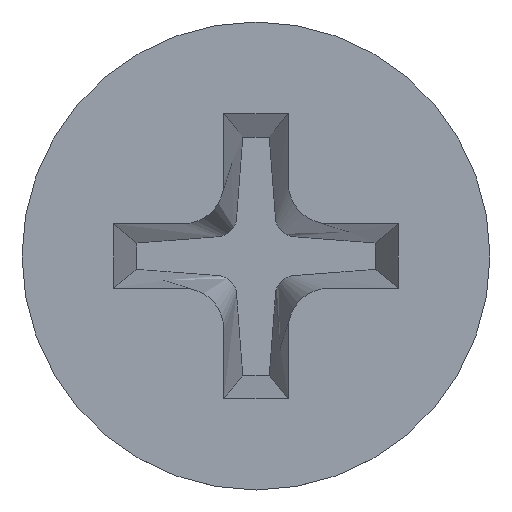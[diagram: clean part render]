
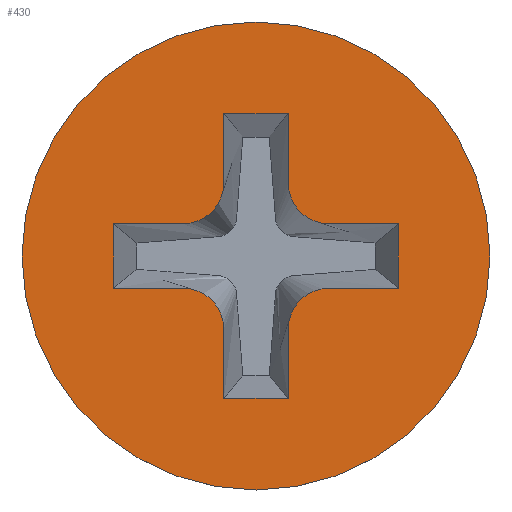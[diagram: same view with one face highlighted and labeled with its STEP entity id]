
A CAD part, top view. The second image highlights one B-rep face of the part: STEP entity #430.
In plain terms, the highlighted planar face has unit normal (0, 0, 1).
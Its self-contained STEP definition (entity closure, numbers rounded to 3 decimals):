
#1 = DIRECTION ( 'NONE',  ( 1., 0., 0. ) ) ;
#8 = CARTESIAN_POINT ( 'NONE',  ( 0.55, 1.25, 2.3 ) ) ;
#15 = CARTESIAN_POINT ( 'NONE',  ( -2.435, 0.55, 2.3 ) ) ;
#17 = CARTESIAN_POINT ( 'NONE',  ( 0.55, 2.435, 2.3 ) ) ;
#30 = DIRECTION ( 'NONE',  ( 0., 0., -1. ) ) ;
#31 = VERTEX_POINT ( 'NONE', #803 ) ;
#32 = AXIS2_PLACEMENT_3D ( 'NONE', #179, #686, #815 ) ;
#35 = VERTEX_POINT ( 'NONE', #309 ) ;
#38 = VERTEX_POINT ( 'NONE', #488 ) ;
#40 = DIRECTION ( 'NONE',  ( 1., 0., 0. ) ) ;
#41 = EDGE_CURVE ( 'NONE', #716, #31, #707, .T. ) ;
#47 = AXIS2_PLACEMENT_3D ( 'NONE', #812, #291, #682 ) ;
#49 = VERTEX_POINT ( 'NONE', #679 ) ;
#50 = CARTESIAN_POINT ( 'NONE',  ( 2.435, -0.55, 2.3 ) ) ;
#61 = ORIENTED_EDGE ( 'NONE', *, *, #421, .F. ) ;
#62 = AXIS2_PLACEMENT_3D ( 'NONE', #422, #353, #297 ) ;
#64 = LINE ( 'NONE', #385, #772 ) ;
#79 = CARTESIAN_POINT ( 'NONE',  ( -1.25, 0.55, 2.3 ) ) ;
#81 = DIRECTION ( 'NONE',  ( 1., 0., 0. ) ) ;
#86 = VERTEX_POINT ( 'NONE', #236 ) ;
#87 = VECTOR ( 'NONE', #789, 1000. ) ;
#100 = VECTOR ( 'NONE', #519, 1000. ) ;
#105 = ORIENTED_EDGE ( 'NONE', *, *, #41, .F. ) ;
#126 = VECTOR ( 'NONE', #787, 1000. ) ;
#130 = ORIENTED_EDGE ( 'NONE', *, *, #505, .F. ) ;
#132 = EDGE_CURVE ( 'NONE', #306, #251, #502, .T. ) ;
#136 = LINE ( 'NONE', #388, #683 ) ;
#138 = DIRECTION ( 'NONE',  ( 0., 0., -1. ) ) ;
#140 = PLANE ( 'NONE',  #578 ) ;
#141 = EDGE_CURVE ( 'NONE', #542, #716, #320, .T. ) ;
#142 = CARTESIAN_POINT ( 'NONE',  ( 0.55, 2.435, 2.3 ) ) ;
#154 = CARTESIAN_POINT ( 'NONE',  ( -0.55, -1.25, 2.3 ) ) ;
#155 = LINE ( 'NONE', #17, #126 ) ;
#164 = EDGE_CURVE ( 'NONE', #31, #249, #702, .T. ) ;
#166 = CARTESIAN_POINT ( 'NONE',  ( -4., 0., 2.3 ) ) ;
#169 = DIRECTION ( 'NONE',  ( 0., 1., 0. ) ) ;
#170 = CARTESIAN_POINT ( 'NONE',  ( 1.25, 0.55, 2.3 ) ) ;
#179 = CARTESIAN_POINT ( 'NONE',  ( 1.25, 1.25, 2.3 ) ) ;
#190 = ORIENTED_EDGE ( 'NONE', *, *, #579, .F. ) ;
#197 = CIRCLE ( 'NONE', #669, 0.7 ) ;
#236 = CARTESIAN_POINT ( 'NONE',  ( 4., 0., 2.3 ) ) ;
#238 = LINE ( 'NONE', #612, #736 ) ;
#249 = VERTEX_POINT ( 'NONE', #142 ) ;
#251 = VERTEX_POINT ( 'NONE', #273 ) ;
#255 = EDGE_CURVE ( 'NONE', #732, #35, #518, .T. ) ;
#264 = CIRCLE ( 'NONE', #62, 4. ) ;
#268 = ORIENTED_EDGE ( 'NONE', *, *, #541, .F. ) ;
#269 = EDGE_CURVE ( 'NONE', #86, #630, #264, .T. ) ;
#271 = DIRECTION ( 'NONE',  ( 1., 0., 0. ) ) ;
#273 = CARTESIAN_POINT ( 'NONE',  ( -0.55, 1.25, 2.3 ) ) ;
#277 = EDGE_CURVE ( 'NONE', #35, #49, #491, .T. ) ;
#280 = AXIS2_PLACEMENT_3D ( 'NONE', #781, #30, #271 ) ;
#282 = LINE ( 'NONE', #15, #87 ) ;
#283 = EDGE_LOOP ( 'NONE', ( #357, #300 ) ) ;
#289 = CARTESIAN_POINT ( 'NONE',  ( 1.25, -0.55, 2.3 ) ) ;
#291 = DIRECTION ( 'NONE',  ( 0., 0., 1. ) ) ;
#293 = ORIENTED_EDGE ( 'NONE', *, *, #132, .F. ) ;
#297 = DIRECTION ( 'NONE',  ( 1., 0., 0. ) ) ;
#300 = ORIENTED_EDGE ( 'NONE', *, *, #269, .T. ) ;
#302 = DIRECTION ( 'NONE',  ( 1., 0., 0. ) ) ;
#306 = VERTEX_POINT ( 'NONE', #540 ) ;
#307 = EDGE_CURVE ( 'NONE', #630, #86, #361, .T. ) ;
#309 = CARTESIAN_POINT ( 'NONE',  ( 0.55, -2.435, 2.3 ) ) ;
#317 = DIRECTION ( 'NONE',  ( -1., 0., 0. ) ) ;
#320 = LINE ( 'NONE', #694, #798 ) ;
#325 = DIRECTION ( 'NONE',  ( -1., 0., 0. ) ) ;
#334 = ORIENTED_EDGE ( 'NONE', *, *, #164, .F. ) ;
#337 = CARTESIAN_POINT ( 'NONE',  ( 2.435, 0.55, 2.3 ) ) ;
#348 = VERTEX_POINT ( 'NONE', #50 ) ;
#353 = DIRECTION ( 'NONE',  ( 0., 0., 1. ) ) ;
#354 = EDGE_CURVE ( 'NONE', #687, #348, #238, .T. ) ;
#357 = ORIENTED_EDGE ( 'NONE', *, *, #307, .T. ) ;
#361 = CIRCLE ( 'NONE', #47, 4. ) ;
#381 = VERTEX_POINT ( 'NONE', #750 ) ;
#385 = CARTESIAN_POINT ( 'NONE',  ( 2.435, 0.55, 2.3 ) ) ;
#388 = CARTESIAN_POINT ( 'NONE',  ( -1.25, 0.55, 2.3 ) ) ;
#390 = CARTESIAN_POINT ( 'NONE',  ( 0., 0., 2.3 ) ) ;
#395 = VECTOR ( 'NONE', #40, 1000. ) ;
#412 = VECTOR ( 'NONE', #1, 1000. ) ;
#414 = ORIENTED_EDGE ( 'NONE', *, *, #255, .F. ) ;
#421 = EDGE_CURVE ( 'NONE', #249, #306, #155, .T. ) ;
#422 = CARTESIAN_POINT ( 'NONE',  ( 0., 0., 2.3 ) ) ;
#430 = ADVANCED_FACE ( 'NONE', ( #601, #586 ), #140, .T. ) ;
#448 = ORIENTED_EDGE ( 'NONE', *, *, #354, .F. ) ;
#451 = DIRECTION ( 'NONE',  ( 0., -1., 0. ) ) ;
#452 = EDGE_CURVE ( 'NONE', #38, #760, #590, .T. ) ;
#453 = DIRECTION ( 'NONE',  ( 0., 1., 0. ) ) ;
#454 = CIRCLE ( 'NONE', #818, 0.7 ) ;
#455 = CARTESIAN_POINT ( 'NONE',  ( 0.55, -2.435, 2.3 ) ) ;
#460 = ORIENTED_EDGE ( 'NONE', *, *, #701, .F. ) ;
#469 = DIRECTION ( 'NONE',  ( 0., 0., -1. ) ) ;
#488 = CARTESIAN_POINT ( 'NONE',  ( -1.25, -0.55, 2.3 ) ) ;
#491 = LINE ( 'NONE', #555, #721 ) ;
#502 = LINE ( 'NONE', #706, #762 ) ;
#505 = EDGE_CURVE ( 'NONE', #251, #816, #454, .T. ) ;
#511 = ORIENTED_EDGE ( 'NONE', *, *, #277, .F. ) ;
#517 = CARTESIAN_POINT ( 'NONE',  ( -0.55, -2.435, 2.3 ) ) ;
#518 = LINE ( 'NONE', #455, #395 ) ;
#519 = DIRECTION ( 'NONE',  ( 0., -1., 0. ) ) ;
#531 = DIRECTION ( 'NONE',  ( 1., 0., 0. ) ) ;
#537 = ORIENTED_EDGE ( 'NONE', *, *, #452, .F. ) ;
#540 = CARTESIAN_POINT ( 'NONE',  ( -0.55, 2.435, 2.3 ) ) ;
#541 = EDGE_CURVE ( 'NONE', #760, #732, #778, .T. ) ;
#542 = VERTEX_POINT ( 'NONE', #337 ) ;
#543 = EDGE_LOOP ( 'NONE', ( #190, #511, #414, #268, #537, #635, #554, #764, #130, #293, #61, #334, #105, #758, #460, #448 ) ) ;
#554 = ORIENTED_EDGE ( 'NONE', *, *, #811, .F. ) ;
#555 = CARTESIAN_POINT ( 'NONE',  ( 0.55, -2.435, 2.3 ) ) ;
#570 = CARTESIAN_POINT ( 'NONE',  ( -1.25, -0.55, 2.3 ) ) ;
#578 = AXIS2_PLACEMENT_3D ( 'NONE', #390, #647, #531 ) ;
#579 = EDGE_CURVE ( 'NONE', #49, #687, #197, .T. ) ;
#586 = FACE_OUTER_BOUND ( 'NONE', #283, .T. ) ;
#590 = CIRCLE ( 'NONE', #280, 0.7 ) ;
#597 = CARTESIAN_POINT ( 'NONE',  ( 1.25, -1.25, 2.3 ) ) ;
#601 = FACE_BOUND ( 'NONE', #543, .T. ) ;
#612 = CARTESIAN_POINT ( 'NONE',  ( 2.435, -0.55, 2.3 ) ) ;
#617 = VECTOR ( 'NONE', #757, 1000. ) ;
#624 = LINE ( 'NONE', #570, #412 ) ;
#630 = VERTEX_POINT ( 'NONE', #166 ) ;
#635 = ORIENTED_EDGE ( 'NONE', *, *, #705, .F. ) ;
#645 = DIRECTION ( 'NONE',  ( -1., 0., 0. ) ) ;
#647 = DIRECTION ( 'NONE',  ( 0., 0., 1. ) ) ;
#655 = CARTESIAN_POINT ( 'NONE',  ( -1.25, 1.25, 2.3 ) ) ;
#659 = CARTESIAN_POINT ( 'NONE',  ( -0.55, -2.435, 2.3 ) ) ;
#669 = AXIS2_PLACEMENT_3D ( 'NONE', #597, #138, #81 ) ;
#679 = CARTESIAN_POINT ( 'NONE',  ( 0.55, -1.25, 2.3 ) ) ;
#682 = DIRECTION ( 'NONE',  ( 1., 0., 0. ) ) ;
#683 = VECTOR ( 'NONE', #645, 1000. ) ;
#686 = DIRECTION ( 'NONE',  ( 0., 0., -1. ) ) ;
#687 = VERTEX_POINT ( 'NONE', #289 ) ;
#694 = CARTESIAN_POINT ( 'NONE',  ( 2.435, 0.55, 2.3 ) ) ;
#701 = EDGE_CURVE ( 'NONE', #348, #542, #64, .T. ) ;
#702 = LINE ( 'NONE', #8, #617 ) ;
#705 = EDGE_CURVE ( 'NONE', #381, #38, #624, .T. ) ;
#706 = CARTESIAN_POINT ( 'NONE',  ( -0.55, 1.25, 2.3 ) ) ;
#707 = CIRCLE ( 'NONE', #32, 0.7 ) ;
#709 = CARTESIAN_POINT ( 'NONE',  ( -2.435, 0.55, 2.3 ) ) ;
#716 = VERTEX_POINT ( 'NONE', #170 ) ;
#721 = VECTOR ( 'NONE', #169, 1000. ) ;
#732 = VERTEX_POINT ( 'NONE', #517 ) ;
#735 = VERTEX_POINT ( 'NONE', #709 ) ;
#736 = VECTOR ( 'NONE', #302, 1000. ) ;
#740 = EDGE_CURVE ( 'NONE', #816, #735, #136, .T. ) ;
#750 = CARTESIAN_POINT ( 'NONE',  ( -2.435, -0.55, 2.3 ) ) ;
#757 = DIRECTION ( 'NONE',  ( 0., 1., 0. ) ) ;
#758 = ORIENTED_EDGE ( 'NONE', *, *, #141, .F. ) ;
#760 = VERTEX_POINT ( 'NONE', #154 ) ;
#762 = VECTOR ( 'NONE', #451, 1000. ) ;
#764 = ORIENTED_EDGE ( 'NONE', *, *, #740, .F. ) ;
#772 = VECTOR ( 'NONE', #453, 1000. ) ;
#778 = LINE ( 'NONE', #659, #100 ) ;
#781 = CARTESIAN_POINT ( 'NONE',  ( -1.25, -1.25, 2.3 ) ) ;
#787 = DIRECTION ( 'NONE',  ( -1., 0., 0. ) ) ;
#789 = DIRECTION ( 'NONE',  ( 0., -1., 0. ) ) ;
#798 = VECTOR ( 'NONE', #317, 1000. ) ;
#803 = CARTESIAN_POINT ( 'NONE',  ( 0.55, 1.25, 2.3 ) ) ;
#811 = EDGE_CURVE ( 'NONE', #735, #381, #282, .T. ) ;
#812 = CARTESIAN_POINT ( 'NONE',  ( 0., 0., 2.3 ) ) ;
#815 = DIRECTION ( 'NONE',  ( -1., 0., 0. ) ) ;
#816 = VERTEX_POINT ( 'NONE', #79 ) ;
#818 = AXIS2_PLACEMENT_3D ( 'NONE', #655, #469, #325 ) ;
